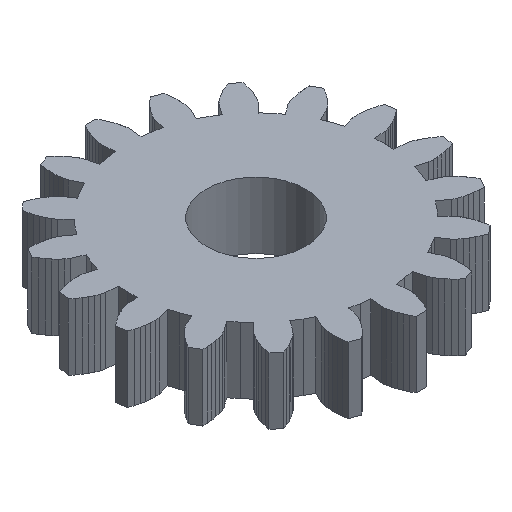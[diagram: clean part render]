
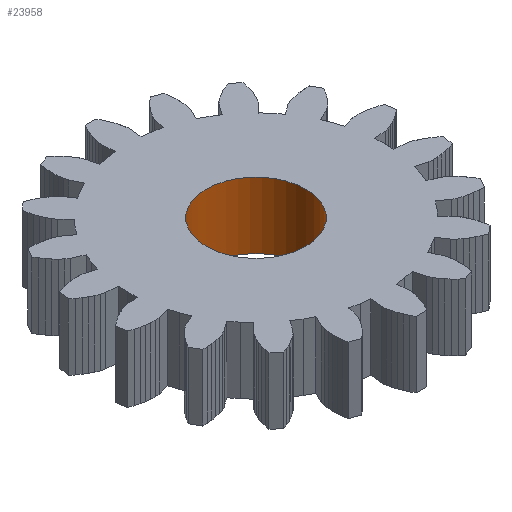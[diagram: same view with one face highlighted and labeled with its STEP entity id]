
A CAD part, isometric view. The second image highlights one B-rep face of the part: STEP entity #23958.
In plain terms, the highlighted cylindrical face has radius 3 mm (diameter 6 mm), a full revolution.
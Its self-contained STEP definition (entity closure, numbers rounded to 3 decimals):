
#72 = PLANE('',#73);
#73 = AXIS2_PLACEMENT_3D('',#74,#75,#76);
#74 = CARTESIAN_POINT('',(-18.,0.,-86.));
#75 = DIRECTION('',(0.,0.,1.));
#76 = DIRECTION('',(1.,0.,-0.));
#126 = PLANE('',#127);
#127 = AXIS2_PLACEMENT_3D('',#128,#129,#130);
#128 = CARTESIAN_POINT('',(-18.,0.,-90.));
#129 = DIRECTION('',(0.,0.,1.));
#130 = DIRECTION('',(1.,0.,-0.));
#8770 = EDGE_CURVE('',#8771,#8771,#8773,.T.);
#8771 = VERTEX_POINT('',#8772);
#8772 = CARTESIAN_POINT('',(-15.,0.,-90.));
#8773 = SURFACE_CURVE('',#8774,(#8779,#8786),.PCURVE_S1.);
#8774 = CIRCLE('',#8775,3.);
#8775 = AXIS2_PLACEMENT_3D('',#8776,#8777,#8778);
#8776 = CARTESIAN_POINT('',(-18.,0.,-90.));
#8777 = DIRECTION('',(0.,0.,1.));
#8778 = DIRECTION('',(1.,0.,-0.));
#8779 = PCURVE('',#126,#8780);
#8780 = DEFINITIONAL_REPRESENTATION('',(#8781),#8785);
#8781 = CIRCLE('',#8782,3.);
#8782 = AXIS2_PLACEMENT_2D('',#8783,#8784);
#8783 = CARTESIAN_POINT('',(0.,0.));
#8784 = DIRECTION('',(1.,0.));
#8785 = ( GEOMETRIC_REPRESENTATION_CONTEXT(2) 
PARAMETRIC_REPRESENTATION_CONTEXT() REPRESENTATION_CONTEXT('2D SPACE',''
  ) );
#8786 = PCURVE('',#8787,#8792);
#8787 = CYLINDRICAL_SURFACE('',#8788,3.);
#8788 = AXIS2_PLACEMENT_3D('',#8789,#8790,#8791);
#8789 = CARTESIAN_POINT('',(-18.,0.,-90.5));
#8790 = DIRECTION('',(0.,0.,1.));
#8791 = DIRECTION('',(1.,0.,-0.));
#8792 = DEFINITIONAL_REPRESENTATION('',(#8793),#8797);
#8793 = LINE('',#8794,#8795);
#8794 = CARTESIAN_POINT('',(0.,0.5));
#8795 = VECTOR('',#8796,1.);
#8796 = DIRECTION('',(1.,0.));
#8797 = ( GEOMETRIC_REPRESENTATION_CONTEXT(2) 
PARAMETRIC_REPRESENTATION_CONTEXT() REPRESENTATION_CONTEXT('2D SPACE',''
  ) );
#15774 = EDGE_CURVE('',#15775,#15775,#15777,.T.);
#15775 = VERTEX_POINT('',#15776);
#15776 = CARTESIAN_POINT('',(-15.,0.,-86.));
#15777 = SURFACE_CURVE('',#15778,(#15783,#15790),.PCURVE_S1.);
#15778 = CIRCLE('',#15779,3.);
#15779 = AXIS2_PLACEMENT_3D('',#15780,#15781,#15782);
#15780 = CARTESIAN_POINT('',(-18.,0.,-86.));
#15781 = DIRECTION('',(0.,0.,1.));
#15782 = DIRECTION('',(1.,0.,-0.));
#15783 = PCURVE('',#72,#15784);
#15784 = DEFINITIONAL_REPRESENTATION('',(#15785),#15789);
#15785 = CIRCLE('',#15786,3.);
#15786 = AXIS2_PLACEMENT_2D('',#15787,#15788);
#15787 = CARTESIAN_POINT('',(0.,0.));
#15788 = DIRECTION('',(1.,0.));
#15789 = ( GEOMETRIC_REPRESENTATION_CONTEXT(2) 
PARAMETRIC_REPRESENTATION_CONTEXT() REPRESENTATION_CONTEXT('2D SPACE',''
  ) );
#15790 = PCURVE('',#8787,#15791);
#15791 = DEFINITIONAL_REPRESENTATION('',(#15792),#15796);
#15792 = LINE('',#15793,#15794);
#15793 = CARTESIAN_POINT('',(0.,4.5));
#15794 = VECTOR('',#15795,1.);
#15795 = DIRECTION('',(1.,0.));
#15796 = ( GEOMETRIC_REPRESENTATION_CONTEXT(2) 
PARAMETRIC_REPRESENTATION_CONTEXT() REPRESENTATION_CONTEXT('2D SPACE',''
  ) );
#23958 = ADVANCED_FACE('',(#23959),#8787,.F.);
#23959 = FACE_BOUND('',#23960,.F.);
#23960 = EDGE_LOOP('',(#23961,#23962,#23983,#23984));
#23961 = ORIENTED_EDGE('',*,*,#15774,.F.);
#23962 = ORIENTED_EDGE('',*,*,#23963,.F.);
#23963 = EDGE_CURVE('',#8771,#15775,#23964,.T.);
#23964 = SEAM_CURVE('',#23965,(#23969,#23976),.PCURVE_S1.);
#23965 = LINE('',#23966,#23967);
#23966 = CARTESIAN_POINT('',(-15.,0.,-90.5));
#23967 = VECTOR('',#23968,1.);
#23968 = DIRECTION('',(0.,0.,1.));
#23969 = PCURVE('',#8787,#23970);
#23970 = DEFINITIONAL_REPRESENTATION('',(#23971),#23975);
#23971 = LINE('',#23972,#23973);
#23972 = CARTESIAN_POINT('',(6.283,-0.));
#23973 = VECTOR('',#23974,1.);
#23974 = DIRECTION('',(0.,1.));
#23975 = ( GEOMETRIC_REPRESENTATION_CONTEXT(2) 
PARAMETRIC_REPRESENTATION_CONTEXT() REPRESENTATION_CONTEXT('2D SPACE',''
  ) );
#23976 = PCURVE('',#8787,#23977);
#23977 = DEFINITIONAL_REPRESENTATION('',(#23978),#23982);
#23978 = LINE('',#23979,#23980);
#23979 = CARTESIAN_POINT('',(0.,-0.));
#23980 = VECTOR('',#23981,1.);
#23981 = DIRECTION('',(0.,1.));
#23982 = ( GEOMETRIC_REPRESENTATION_CONTEXT(2) 
PARAMETRIC_REPRESENTATION_CONTEXT() REPRESENTATION_CONTEXT('2D SPACE',''
  ) );
#23983 = ORIENTED_EDGE('',*,*,#8770,.T.);
#23984 = ORIENTED_EDGE('',*,*,#23963,.T.);
